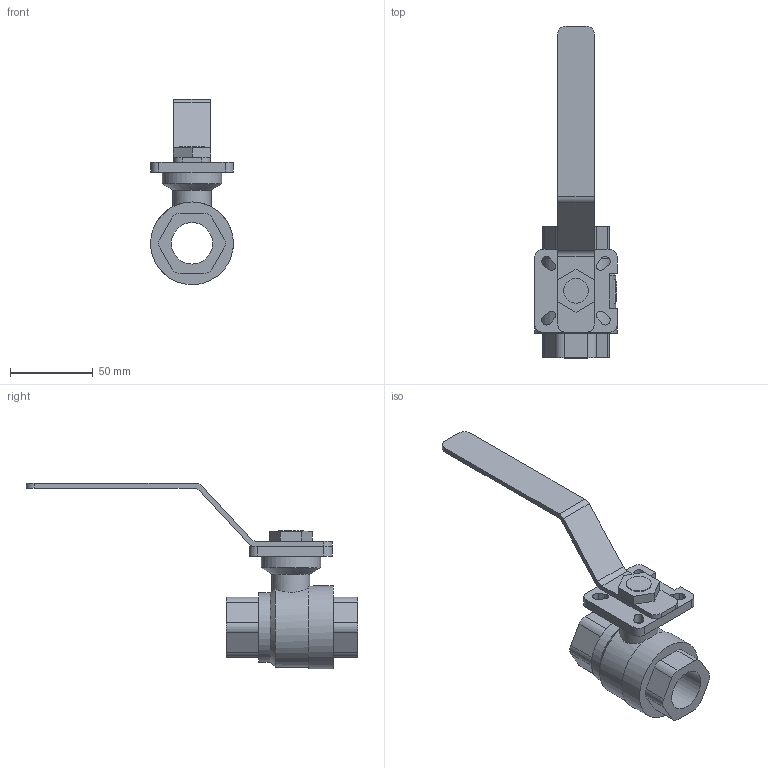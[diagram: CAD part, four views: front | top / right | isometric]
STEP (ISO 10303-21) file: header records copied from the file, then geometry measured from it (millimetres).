
FILE_DESCRIPTION(('STEP AP203'), '1');
FILE_NAME('3D_7015-025-63', '', ('UNSPECIFIED'), ('UNSPECIFIED'), 'C3D Converter', 'C3D Toolkit', '');
FILE_SCHEMA(('CONFIG_CONTROL_DESIGN'));
Length unit declared in the file: millimetre
Bounding box: 50 x 200.5 x 111.93 mm (x, y, z)
Volume: 123619.3 mm3; surface area: 37204.5 mm2
Topology: 11 solids, 11 shells, 937 faces, 2732 edges, 1822 vertices
Faces by surface type: plane 896, cylinder 39, cone 2
Full cylindrical faces by diameter (mm): 15 x1, 23 x1, 25 x1, 36 x1, 42 x1, 50 x1
Entity records: 38348 total; most frequent: CARTESIAN_POINT 5835, ORIENTED_EDGE 5448, DIRECTION 4685, EDGE_CURVE 2724, LINE 2629, VECTOR 2629, VERTEX_POINT 1822, AXIS2_PLACEMENT_3D 1028
